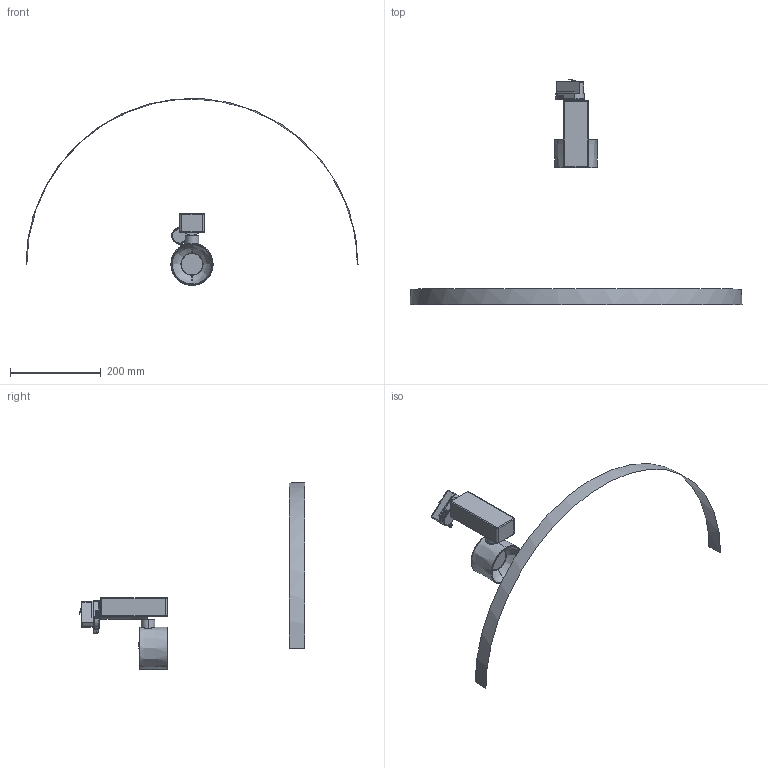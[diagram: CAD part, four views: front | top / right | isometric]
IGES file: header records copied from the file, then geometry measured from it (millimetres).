
Start section: SolidWorks IGES file using analytic representation for surfaces
Global section: file name: F:\GABRYSIA\MODELE 3D\OPRAWY\CTLS-NEA-LED-8757-8755-WWW\CTLS-NEA-LED-8757-8755.IGS; native system: SolidWorks 2017; preprocessor: SolidWorks 2017; author: Togambi; date: 200907.111130; units: millimetre
Bounding box: 731.9 x 497.49 x 411.69 mm (x, y, z)
Surface area: 184588 mm2 (no closed solid volume)
Topology: 0 solids, 0 shells, 306 faces, 3941 edges, 3936 vertices
Faces by surface type: revolution 211, bspline 95
